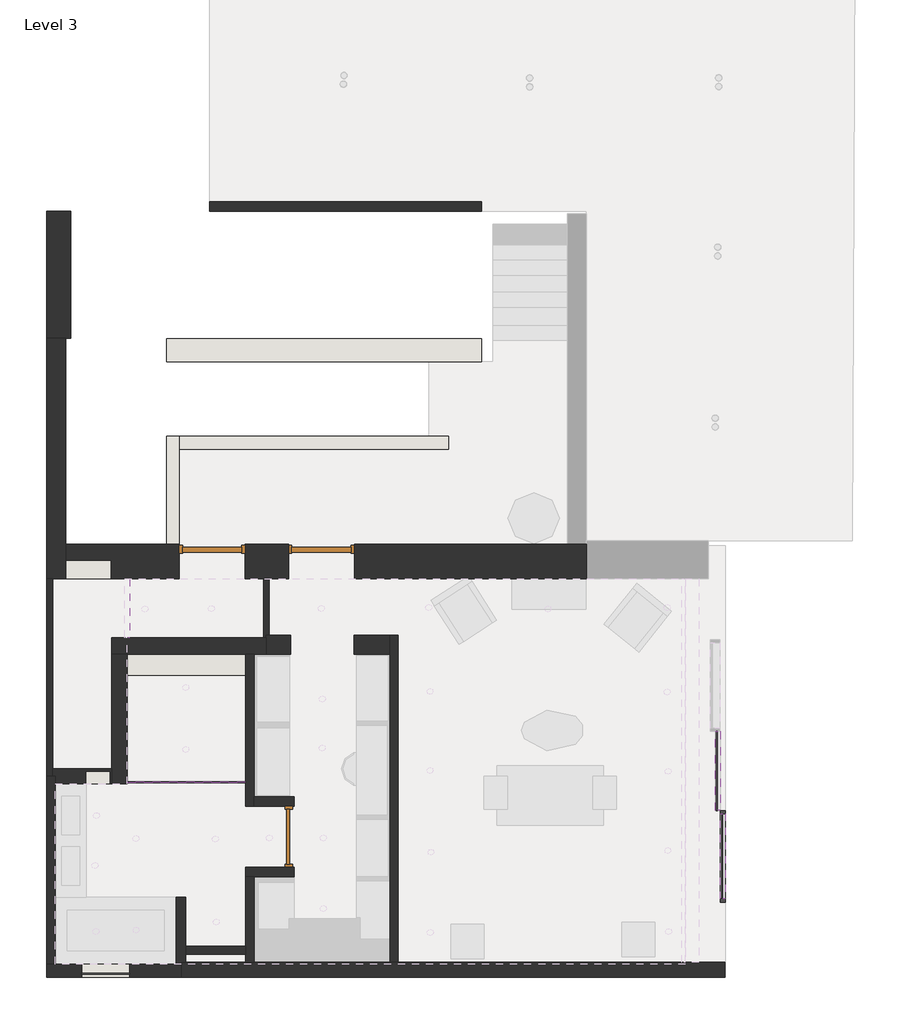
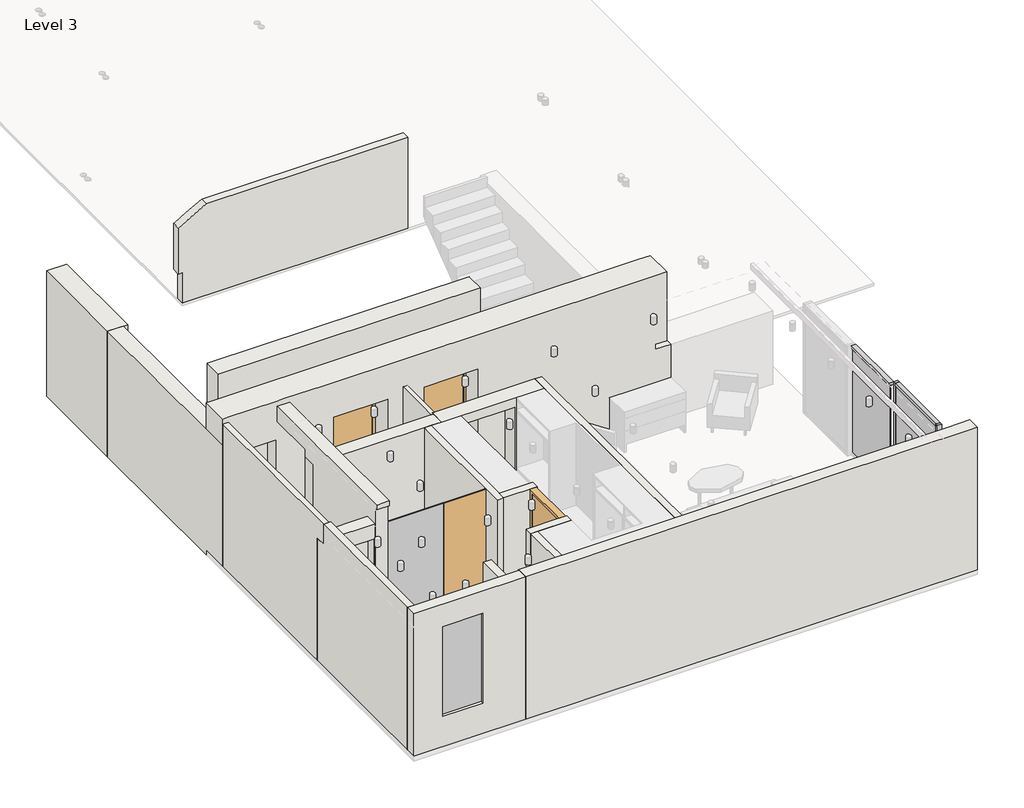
# One storey, part 1 of 3: 25 walls, 12 members, 4 doors, 4 plates.
"""IFC4 building model written with IfcOpenShell, lengths in millimetres."""

from ifc_helpers import new_model, si_unit, frame, origin, place, context, project, spatial, polyline, outline, extrude, faceted_brep, transform, mapped, element, save
from components import door_02_type_1_7ad4ace3, door_02_type_6_e402827d, door_curtain_01_door_curtain_01_359b2a1c, rectangular_mullion_5_x_5mm_88a26902, rectangular_mullion_5_x_5mm_aac041f1, rectangular_mullion_5_x_5mm_7703ae8f, rectangular_mullion_5_x_5mm_a12ae60d, rectangular_mullion_50_x_80mm_1b52a698, rectangular_mullion_50_x_80mm_d9e2006d, rectangular_mullion_50_x_80mm_2e97effb, system_panel_glazed_2_88c32355, system_panel_glazed_2_60bf9f6a, system_panel_glazed_2_a4a2e409, system_panel_glazed_2_9149ad4c

model = new_model("IFC4")

# Units and contexts
model_context = context("Model", 3, world=origin())
ifc_project = project(units=[si_unit("LENGTHUNIT", "METRE", prefix="MILLI")], contexts=[model_context])

# Site, building, storey
site = spatial("IfcSite", under=ifc_project)
building = spatial("IfcBuilding", under=site)
storey = spatial("IfcBuildingStorey", under=building, Name="Level 3", Elevation=6510.0)

# Doors
placement = place(None, origin())
door_02_type_1_shape = door_02_type_1_7ad4ace3(model_context)
element("IfcDoor", 1, ObjectType="Door_02 : Type 1", at=placement, inside=storey, context=model_context, shape_type="MappedRepresentation", body=[
    mapped(door_02_type_1_shape, transform((-3568.0019919, 5095.5198069, 6510.0), x_axis=(1.0, 0.0, 0.0), y_axis=(0.0, 1.0, 0.0), z_axis=(0.0, 0.0, 1.0))),
])
element("IfcDoor", 2, ObjectType="Door_02 : Type 1", at=placement, inside=storey, context=model_context, shape_type="MappedRepresentation", body=[
    mapped(door_02_type_1_shape, transform((-5282.6989418, 5095.5198069, 6510.0), x_axis=(1.0, 0.0, 0.0), y_axis=(0.0, 1.0, 0.0), z_axis=(0.0, 0.0, 1.0))),
])
door_02_type_6_shape = door_02_type_6_e402827d(model_context)
element("IfcDoor", 3, ObjectType="Door_02 : Type 6", at=placement, inside=storey, context=model_context, shape_type="MappedRepresentation", body=[
    mapped(door_02_type_6_shape, transform((-4073.0019919, 783.8264883, 6510.0), x_axis=(0.0, -1.0, 0.0), y_axis=(1.0, 0.0, 0.0), z_axis=(0.0, 0.0, 1.0))),
])
door_curtain_01_door_curtain_01_shape = door_curtain_01_door_curtain_01_359b2a1c(model_context)
element("IfcDoor", 4, ObjectType="Door_Curtain_01 : Door_Curtain_01", at=placement, inside=storey, context=model_context, shape_type="MappedRepresentation", body=[
    mapped(door_curtain_01_door_curtain_01_shape, transform((-5159.2519919, 1638.8264883, 6515.0), x_axis=(1.0, 0.0, 0.0), y_axis=(0.0, 1.0, 0.0), z_axis=(0.0, 0.0, 1.0))),
])

# Members
rectangular_mullion_5_x_5mm_shape = rectangular_mullion_5_x_5mm_88a26902(model_context)
element("IfcMember", 5, ObjectType="Rectangular Mullion : 5 x 5mm", at=placement, inside=storey, context=model_context, shape_type="MappedRepresentation", body=[
    mapped(rectangular_mullion_5_x_5mm_shape, transform((-5558.0019919, 1638.8264883, 6510.0), x_axis=(1.0, 0.0, 0.0), y_axis=(0.0, -1.0, 0.0), z_axis=(0.0, 0.0, -1.0))),
])
rectangular_mullion_5_x_5mm_2_shape = rectangular_mullion_5_x_5mm_aac041f1(model_context)
element("IfcMember", 6, ObjectType="Rectangular Mullion : 5 x 5mm", at=placement, inside=storey, context=model_context, shape_type="MappedRepresentation", body=[
    mapped(rectangular_mullion_5_x_5mm_2_shape, transform((-6618.0019919, 1638.8264883, 8900.0), x_axis=(-1.0, 0.0, 0.0), y_axis=(0.0, -1.0, 0.0), z_axis=(0.0, 0.0, 1.0))),
])
element("IfcMember", 7, ObjectType="Rectangular Mullion : 5 x 5mm", at=placement, inside=storey, context=model_context, shape_type="MappedRepresentation", body=[
    mapped(rectangular_mullion_5_x_5mm_2_shape, transform((-4758.0019919, 1638.8264883, 6510.0), x_axis=(1.0, 0.0, 0.0), y_axis=(0.0, -1.0, 0.0), z_axis=(0.0, 0.0, -1.0))),
])
rectangular_mullion_5_x_5mm_3_shape = rectangular_mullion_5_x_5mm_7703ae8f(model_context)
element("IfcMember", 8, ObjectType="Rectangular Mullion : 5 x 5mm", at=placement, inside=storey, context=model_context, shape_type="MappedRepresentation", body=[
    mapped(rectangular_mullion_5_x_5mm_3_shape, transform((-5560.5019919, 1638.8264883, 8900.0), x_axis=(0.0, 0.0, 1.0), y_axis=(0.0, -1.0, 0.0), z_axis=(1.0, 0.0, 0.0))),
])
rectangular_mullion_5_x_5mm_4_shape = rectangular_mullion_5_x_5mm_a12ae60d(model_context)
element("IfcMember", 9, ObjectType="Rectangular Mullion : 5 x 5mm", at=placement, inside=storey, context=model_context, shape_type="MappedRepresentation", body=[
    mapped(rectangular_mullion_5_x_5mm_4_shape, transform((-4763.0019919, 1638.8264883, 8900.0), x_axis=(0.0, 0.0, 1.0), y_axis=(0.0, -1.0, 0.0), z_axis=(1.0, 0.0, 0.0))),
])
element("IfcMember", 10, ObjectType="Rectangular Mullion : 5 x 5mm", at=placement, inside=storey, context=model_context, shape_type="MappedRepresentation", body=[
    mapped(rectangular_mullion_5_x_5mm_4_shape, transform((-5555.5019919, 1638.8264883, 6510.0), x_axis=(0.0, 0.0, -1.0), y_axis=(0.0, -1.0, 0.0), z_axis=(-1.0, 0.0, 0.0))),
])
element("IfcMember", 11, ObjectType="Rectangular Mullion : 5 x 5mm", at=placement, inside=storey, context=model_context, shape_type="MappedRepresentation", body=[
    mapped(rectangular_mullion_5_x_5mm_3_shape, transform((-6613.0019919, 1638.8264883, 6510.0), x_axis=(0.0, 0.0, -1.0), y_axis=(0.0, -1.0, 0.0), z_axis=(-1.0, 0.0, 0.0))),
])
rectangular_mullion_50_x_80mm_shape = rectangular_mullion_50_x_80mm_1b52a698(model_context)
element("IfcMember", 12, ObjectType="Rectangular Mullion : 50 x 80mm", at=placement, inside=storey, context=model_context, shape_type="MappedRepresentation", body=[
    mapped(rectangular_mullion_50_x_80mm_shape, transform((2634.4980081, 1195.5198069, 8694.1033932), x_axis=(0.0, 0.0, 1.0), y_axis=(-1.0, 0.0, 0.0), z_axis=(0.0, -1.0, 0.0))),
])
rectangular_mullion_50_x_80mm_2_shape = rectangular_mullion_50_x_80mm_d9e2006d(model_context)
element("IfcMember", 13, ObjectType="Rectangular Mullion : 50 x 80mm", at=placement, inside=storey, context=model_context, shape_type="MappedRepresentation", body=[
    mapped(rectangular_mullion_50_x_80mm_2_shape, transform((2714.4980081, -189.4801931, 8694.1033932), x_axis=(0.0, 0.0, 1.0), y_axis=(-1.0, 0.0, 0.0), z_axis=(0.0, -1.0, 0.0))),
])
element("IfcMember", 14, ObjectType="Rectangular Mullion : 50 x 80mm", at=placement, inside=storey, context=model_context, shape_type="MappedRepresentation", body=[
    mapped(rectangular_mullion_50_x_80mm_2_shape, transform((2714.4980081, 1145.5198069, 6510.0), x_axis=(0.0, 0.0, -1.0), y_axis=(-1.0, 0.0, 0.0), z_axis=(0.0, 1.0, 0.0))),
])
rectangular_mullion_50_x_80mm_3_shape = rectangular_mullion_50_x_80mm_2e97effb(model_context)
element("IfcMember", 15, ObjectType="Rectangular Mullion : 50 x 80mm", at=placement, inside=storey, context=model_context, shape_type="MappedRepresentation", body=[
    mapped(rectangular_mullion_50_x_80mm_3_shape, transform((2714.4980081, 1195.5198069, 8694.1033932), x_axis=(0.0, 1.0, 0.0), y_axis=(-1.0, 0.0, 0.0), z_axis=(0.0, 0.0, 1.0))),
])
element("IfcMember", 16, ObjectType="Rectangular Mullion : 50 x 80mm", at=placement, inside=storey, context=model_context, shape_type="MappedRepresentation", body=[
    mapped(rectangular_mullion_50_x_80mm_3_shape, transform((2714.4980081, -239.4801931, 6510.0), x_axis=(0.0, -1.0, 0.0), y_axis=(-1.0, 0.0, 0.0), z_axis=(0.0, 0.0, -1.0))),
])

# Plates
system_panel_glazed_2_shape = system_panel_glazed_2_88c32355(model_context)
element("IfcPlate", 17, ObjectType="System Panel : Glazed 2", at=placement, inside=storey, context=model_context, shape_type="MappedRepresentation", body=[
    mapped(system_panel_glazed_2_shape, transform((2634.4980081, 1815.5198069, 6560.0), x_axis=(0.0, -1.0, 0.0), y_axis=(1.0, 0.0, 0.0), z_axis=(0.0, 0.0, 1.0))),
])
system_panel_glazed_2_2_shape = system_panel_glazed_2_60bf9f6a(model_context)
element("IfcPlate", 18, ObjectType="System Panel : Glazed 2", at=placement, inside=storey, context=model_context, shape_type="MappedRepresentation", body=[
    mapped(system_panel_glazed_2_2_shape, transform((2714.4980081, 478.0198069, 6560.0), x_axis=(0.0, -1.0, 0.0), y_axis=(1.0, 0.0, 0.0), z_axis=(0.0, 0.0, 1.0))),
])
system_panel_glazed_2_3_shape = system_panel_glazed_2_a4a2e409(model_context)
element("IfcPlate", 19, ObjectType="System Panel : Glazed 2", at=placement, inside=storey, context=model_context, shape_type="MappedRepresentation", body=[
    mapped(system_panel_glazed_2_3_shape, transform((-6086.7519919, 1638.8264883, 6515.0), x_axis=(1.0, 0.0, 0.0), y_axis=(0.0, 1.0, 0.0), z_axis=(0.0, 0.0, 1.0))),
])
system_panel_glazed_2_4_shape = system_panel_glazed_2_9149ad4c(model_context)
element("IfcPlate", 20, ObjectType="System Panel : Glazed 2", at=placement, inside=storey, context=model_context, shape_type="MappedRepresentation", body=[
    mapped(system_panel_glazed_2_4_shape, transform((-6953.0019919, -1361.1735117, 7112.4168802), x_axis=(1.0, 0.0, 0.0), y_axis=(0.0, 1.0, 0.0), z_axis=(0.0, 0.0, 1.0))),
])

# Walls
element("IfcWall", 21, ObjectType="Generic - Ext 100mm", at=placement, inside=storey, context=model_context, shape_type="Brep", body=[
    faceted_brep([(-7880.5019919, 4825.5198069, 6510.0), (-7880.5019919, 1733.8264883, 6510.0), (-7880.5019919, 1733.8264883, 8950.0), (-7880.5019919, 1530.5887248, 8950.0), (-7880.5019919, 1530.5887248, 9350.0), (-7880.5019919, 4825.5198069, 9350.0), (-7880.5019919, 4825.5198069, 8916.1931507), (-7780.5019919, 4825.5198069, 6510.0), (-7780.5019919, 4825.5198069, 9350.0), (-7780.5019919, 1530.5887248, 9350.0), (-7780.5019919, 1530.5887248, 8950.0), (-7780.5019919, 1733.8264883, 8950.0), (-7780.5019919, 1733.8264883, 6510.0), (-7780.5019919, 1853.8264883, 6510.0)], [[[0, 1, 2, 3, 4, 5, 6]], [[7, 8, 9, 10, 11, 12, 13]], [[0, 6, 5, 8, 7]], [[1, 0, 7, 13, 12]], [[2, 1, 12, 11]], [[5, 4, 9, 8]], [[3, 2, 11, 10]], [[4, 3, 10, 9]]]),
])
element("IfcWall", 22, ObjectType="Generic - Ext 135mm", at=placement, inside=storey, context=model_context, shape_type="Brep", body=[
    faceted_brep([(-7880.5019919, 1733.8264883, 6510.0), (-7880.5019919, -1211.1735117, 6510.0), (-7880.5019919, -1211.1735117, 9350.0), (-7880.5019919, 1530.5887248, 9350.0), (-7880.5019919, 1530.5887248, 8950.0), (-7880.5019919, 1733.8264883, 8950.0), (-7745.5019919, 1733.8264883, 6510.0), (-7745.5019919, 1733.8264883, 8950.0), (-7745.5019919, 1613.8264883, 8950.0), (-7745.5019919, 1530.5887248, 8950.0), (-7745.5019919, 1530.5887248, 9350.0), (-7745.5019919, -1211.1735117, 9350.0), (-7745.5019919, -1211.1735117, 6510.0), (-7745.5019919, 1613.8264883, 6510.0), (-7780.5019919, 1733.8264883, 6510.0), (-7780.5019919, 1530.5887248, 9350.0), (-7780.5019919, 1733.8264883, 8950.0), (-7780.5019919, 1530.5887248, 8950.0)], [[[0, 1, 2, 3, 4, 5]], [[6, 7, 8, 9, 10, 11, 12, 13]], [[2, 1, 12, 11]], [[1, 0, 14, 6, 13, 12]], [[3, 2, 11, 10, 15]], [[0, 5, 16, 7, 6, 14]], [[4, 3, 15, 10, 9, 17]], [[5, 4, 17, 9, 8, 7, 16]]]),
])
element("IfcWall", 23, ObjectType="Generic - Ext 150mm", at=placement, inside=storey, context=model_context, shape_type="Brep", body=[
    faceted_brep([(-5319.2035042, 10588.8264883, 7375.0), (-1057.6989418, 10588.8264883, 7375.0), (-1057.6989418, 10588.8264883, 9196.0483), (-4867.0187945, 10588.8264883, 9196.0483), (-5394.2035042, 10588.8264883, 8898.9949825), (-5394.2035042, 10588.8264883, 7980.0), (-5319.2035042, 10588.8264883, 7980.0), (-5319.2035042, 10738.8264883, 7375.0), (-5319.2035042, 10738.8264883, 7980.0), (-5394.2035042, 10738.8264883, 7980.0), (-5394.2035042, 10738.8264883, 8080.0), (-5394.2035042, 10738.8264883, 8898.9949825), (-5365.7991741, 10738.8264883, 8915.0), (-5162.6989418, 10738.8264883, 9029.4410995), (-4867.0187945, 10738.8264883, 9196.0483), (-1057.6989418, 10738.8264883, 9196.0483), (-1057.6989418, 10738.8264883, 7375.0)], [[[0, 1, 2, 3, 4, 5, 6]], [[7, 8, 9, 10, 11, 12, 13, 14, 15, 16]], [[2, 1, 16, 15]], [[0, 6, 8, 7]], [[1, 0, 7, 16]], [[3, 2, 15, 14]], [[5, 4, 11, 10, 9]], [[5, 9, 8, 6]], [[4, 3, 14, 13, 12, 11]]]),
])
element("IfcWall", 24, ObjectType="Generic - Ext 210mm", at=placement, inside=storey, context=model_context, shape_type="Brep", body=[
    faceted_brep([(-5769.6139704, -1211.1735117, 6510.0), (-5844.6139704, -1211.1735117, 6510.0), (-7745.5019919, -1211.1735117, 6510.0), (-7880.5019919, -1211.1735117, 6510.0), (-7880.5019919, -1211.1735117, 9350.0), (-7745.5019919, -1211.1735117, 9350.0), (-5769.6139704, -1211.1735117, 9350.0), (-5769.6139704, -1211.1735117, 8900.0), (-7330.5019919, -1211.1735117, 8900.0), (-7330.5019919, -1211.1735117, 7112.4168802), (-6575.5019919, -1211.1735117, 7112.4168802), (-6575.5019919, -1211.1735117, 8900.0), (-7880.5019919, -1421.1735117, 6510.0), (-5769.6139704, -1421.1735117, 6510.0), (-5769.6139704, -1421.1735117, 9350.0), (-7880.5019919, -1421.1735117, 9350.0), (-7330.5019919, -1421.1735117, 7112.4168802), (-7330.5019919, -1421.1735117, 8900.0), (-6575.5019919, -1421.1735117, 8900.0), (-6575.5019919, -1421.1735117, 7112.4168802)], [[[0, 1, 2, 3, 4, 5, 6, 7], [8, 9, 10, 11]], [[12, 13, 14, 15], [16, 17, 18, 19]], [[3, 2, 1, 0, 13, 12]], [[6, 5, 4, 15, 14]], [[4, 3, 12, 15]], [[16, 9, 8, 17]], [[17, 8, 11, 18]], [[18, 11, 10, 19]], [[9, 16, 19, 10]], [[6, 14, 13, 0, 7]]]),
])
element("IfcWall", 25, ObjectType="Generic - Ext 240mm", at=placement, inside=storey, context=model_context, shape_type="Brep", body=[
    faceted_brep([(2759.4980081, -1181.1735117, 6510.0), (2349.4980081, -1181.1735117, 6510.0), (-2365.5019919, -1181.1735117, 6510.0), (-2495.5019919, -1181.1735117, 6510.0), (-4628.0019919, -1181.1735117, 6510.0), (-4758.0019919, -1181.1735117, 6510.0), (-5694.6139704, -1181.1735117, 6510.0), (-5769.6139704, -1181.1735117, 6510.0), (-5769.6139704, -1181.1735117, 8900.0), (-5769.6139704, -1181.1735117, 9350.0), (2349.4980081, -1181.1735117, 9350.0), (2759.4980081, -1181.1735117, 9350.0), (2759.4980081, -1421.1735117, 6510.0), (2759.4980081, -1421.1735117, 9350.0), (-5769.6139704, -1421.1735117, 9350.0), (-5769.6139704, -1421.1735117, 6510.0), (-5769.6139704, -1211.1735117, 6510.0), (-5769.6139704, -1211.1735117, 9350.0)], [[[0, 1, 2, 3, 4, 5, 6, 7, 8, 9, 10, 11]], [[12, 13, 14, 15]], [[7, 6, 5, 4, 3, 2, 1, 0, 12, 15, 16]], [[11, 10, 9, 17, 14, 13]], [[0, 11, 13, 12]], [[7, 16, 15, 14, 17, 9, 8]]]),
])
element("IfcWall", 26, ObjectType="Generic - Ext 300mm", at=placement, inside=storey, context=model_context, shape_type="Brep", body=[
    faceted_brep([(-7880.5019919, 4825.5198069, 8916.1931507), (-7880.5019919, 5365.5198069, 8916.1931507), (-7880.5019919, 8595.5198069, 8916.1931507), (-7880.5019919, 8595.5198069, 8915.0), (-7880.5019919, 8595.5198069, 6410.0), (-7880.5019919, 5365.5198069, 6410.0), (-7880.5019919, 5365.5198069, 6510.0), (-7880.5019919, 4825.5198069, 6510.0), (-7580.5019919, 8595.5198069, 8916.1931507), (-7580.5019919, 5365.5198069, 8916.1931507), (-7580.5019919, 4825.5198069, 8916.1931507), (-7580.5019919, 4825.5198069, 8687.2519355), (-7580.5019919, 4825.5198069, 7367.2519355), (-7580.5019919, 4825.5198069, 6510.0), (-7580.5019919, 5365.5198069, 6510.0), (-7580.5019919, 5365.5198069, 6410.0), (-7580.5019919, 8595.5198069, 6410.0), (-7780.5019919, 4825.5198069, 6510.0)], [[[0, 1, 2, 3, 4, 5, 6, 7]], [[8, 9, 10, 11, 12, 13, 14, 15, 16]], [[4, 16, 15, 5]], [[2, 1, 0, 10, 9, 8]], [[4, 3, 2, 8, 16]], [[10, 0, 7, 17, 13, 12, 11]], [[6, 14, 13, 17, 7]], [[14, 6, 5, 15]]]),
])
element("IfcWall", 27, ObjectType="Generic - Ext 380mm", at=placement, inside=storey, context=model_context, shape_type="Brep", body=[
    faceted_brep([(-7500.5019919, 8595.5198069, 6410.0), (-7500.5019919, 10588.8264883, 6410.0), (-7500.5019919, 10588.8264883, 8608.580519), (-7500.5019919, 10588.8264883, 8915.0), (-7500.5019919, 8595.5198069, 8915.0), (-7880.5019919, 8595.5198069, 6410.0), (-7880.5019919, 8595.5198069, 8915.0), (-7880.5019919, 10588.8264883, 8915.0), (-7880.5019919, 10588.8264883, 6410.0), (-7580.5019919, 8595.5198069, 6410.0)], [[[0, 1, 2, 3, 4]], [[5, 6, 7, 8]], [[1, 0, 9, 5, 8]], [[4, 3, 7, 6]], [[0, 4, 6, 5, 9]], [[3, 2, 1, 8, 7]]]),
])
element("IfcWall", 28, ObjectType="Generic - Int 130mm", at=placement, inside=storey, context=model_context, shape_type="Brep", body=[
    faceted_brep([(-2365.5019919, -1181.1735117, 6510.0), (-2365.5019919, 3943.8264883, 6510.0), (-2365.5019919, 3943.8264883, 8900.0), (-2365.5019919, -1181.1735117, 8900.0), (-2495.5019919, -1181.1735117, 6510.0), (-2495.5019919, -1181.1735117, 8900.0), (-2495.5019919, 3643.8264883, 8900.0), (-2495.5019919, 3943.8264883, 8900.0), (-2495.5019919, 3943.8264883, 6510.0), (-2495.5019919, 3643.8264883, 6510.0)], [[[0, 1, 2, 3]], [[4, 5, 6, 7, 8, 9]], [[1, 0, 4, 9, 8]], [[3, 2, 7, 6, 5]], [[0, 3, 5, 4]], [[2, 1, 8, 7]]]),
])
element("IfcWall", 29, ObjectType="Generic - Int 130mm", at=placement, inside=storey, context=model_context, shape_type="Brep", body=[
    faceted_brep([(-4758.0019919, 3643.8264883, 8900.0), (-4758.0019919, 3643.8264883, 6938.6147011), (-4758.0019919, 3643.8264883, 6510.0), (-4758.0019919, 3313.8264883, 6510.0), (-4758.0019919, 1263.8264883, 6510.0), (-4758.0019919, 1263.8264883, 8900.0), (-4628.0019919, 3643.8264883, 6510.0), (-4628.0019919, 3643.8264883, 8900.0), (-4628.0019919, 1413.8264883, 8900.0), (-4628.0019919, 1263.8264883, 8900.0), (-4628.0019919, 1263.8264883, 6510.0), (-4628.0019919, 1413.8264883, 6510.0)], [[[0, 1, 2, 3, 4, 5]], [[6, 7, 8, 9, 10, 11]], [[4, 3, 2, 6, 11, 10]], [[0, 5, 9, 8, 7]], [[5, 4, 10, 9]], [[0, 7, 6, 2, 1]]]),
])
element("IfcWall", 30, ObjectType="Generic - Int 130mm", at=placement, inside=storey, context=model_context, shape_type="Brep", body=[
    faceted_brep([(-4758.0019919, 157.224799, 6510.0), (-4758.0019919, -930.4532002, 6510.0), (-4758.0019919, -1060.4532002, 6510.0), (-4758.0019919, -1181.1735117, 6510.0), (-4758.0019919, -1181.1735117, 8900.0), (-4758.0019919, -1060.4532002, 8900.0), (-4758.0019919, -930.4532002, 8900.0), (-4758.0019919, 157.224799, 8900.0), (-4628.0019919, 157.224799, 6510.0), (-4628.0019919, 157.224799, 8900.0), (-4628.0019919, -1181.1735117, 8900.0), (-4628.0019919, -1181.1735117, 6510.0)], [[[0, 1, 2, 3, 4, 5, 6, 7]], [[8, 9, 10, 11]], [[3, 2, 1, 0, 8, 11]], [[7, 6, 5, 4, 10, 9]], [[0, 7, 9, 8]], [[4, 3, 11, 10]]]),
])
element("IfcWall", 31, ObjectType="Generic - Int 130mm", at=placement, inside=storey, context=model_context, shape_type="SweptSolid", body=[
    extrude(outline(polyline([(-5694.6139704, -930.4532002), (-4758.0019919, -930.4532002), (-4758.0019919, -1060.4532002), (-5694.6139704, -1060.4532002), (-5694.6139704, -930.4532002)])), frame((0.0, 0.0, 6510.0), z_axis=(0.0, 0.0, 1.0), x_axis=(1.0, 0.0, 0.0)), (0.0, 0.0, 1.0), 2390.0),
])
element("IfcWall", 32, ObjectType="Generic - Int 150mm", at=placement, inside=storey, context=model_context, shape_type="SweptSolid", body=[
    extrude(outline(polyline([(-3998.0019919, 1263.8264883), (-4628.0019919, 1263.8264883), (-4628.0019919, 1413.8264883), (-3998.0019919, 1413.8264883), (-3998.0019919, 1263.8264883)])), frame((0.0, 0.0, 6510.0), z_axis=(0.0, 0.0, 1.0), x_axis=(1.0, 0.0, 0.0)), (0.0, 0.0, 1.0), 2390.0),
])
element("IfcWall", 33, ObjectType="Generic - Int 150mm", at=placement, inside=storey, context=model_context, shape_type="Brep", body=[
    faceted_brep([(-3998.0019919, 307.224799, 6510.0), (-4148.0019919, 307.224799, 6510.0), (-4758.0019919, 307.224799, 6510.0), (-4758.0019919, 307.224799, 8900.0), (-4148.0019919, 307.224799, 8900.0), (-3998.0019919, 307.224799, 8900.0), (-3998.0019919, 157.224799, 6510.0), (-3998.0019919, 157.224799, 8900.0), (-4628.0019919, 157.224799, 8900.0), (-4758.0019919, 157.224799, 8900.0), (-4758.0019919, 157.224799, 6510.0), (-4628.0019919, 157.224799, 6510.0)], [[[0, 1, 2, 3, 4, 5]], [[6, 7, 8, 9, 10, 11]], [[2, 1, 0, 6, 11, 10]], [[5, 4, 3, 9, 8, 7]], [[3, 2, 10, 9]], [[0, 5, 7, 6]]]),
])
element("IfcWall", 34, ObjectType="Generic - Int 150mm", at=placement, inside=storey, context=model_context, shape_type="Brep", body=[
    faceted_brep([(-5844.6139704, -161.1735117, 6510.0), (-5844.6139704, -1211.1735117, 6510.0), (-5844.6139704, -1211.1735117, 8900.0), (-5844.6139704, -161.1735117, 8900.0), (-5694.6139704, -161.1735117, 6510.0), (-5694.6139704, -161.1735117, 8900.0), (-5694.6139704, -930.4532002, 8900.0), (-5694.6139704, -1060.4532002, 8900.0), (-5694.6139704, -1181.1735117, 8900.0), (-5694.6139704, -1181.1735117, 6510.0), (-5694.6139704, -1060.4532002, 6510.0), (-5694.6139704, -930.4532002, 6510.0), (-5769.6139704, -1181.1735117, 6510.0), (-5769.6139704, -1211.1735117, 6510.0), (-5769.6139704, -1211.1735117, 8900.0), (-5769.6139704, -1181.1735117, 8900.0)], [[[0, 1, 2, 3]], [[4, 5, 6, 7, 8, 9, 10, 11]], [[1, 0, 4, 11, 10, 9, 12, 13]], [[3, 2, 14, 15, 8, 7, 6, 5]], [[0, 3, 5, 4]], [[2, 1, 13, 14]], [[13, 12, 15, 14]], [[12, 9, 8, 15]]]),
])
element("IfcWall", 35, ObjectType="Generic - Int 200mm", at=placement, inside=storey, context=model_context, shape_type="Brep", body=[
    faceted_brep([(-5997.6989418, 7058.2374199, 6510.0), (-5997.6989418, 5365.5198069, 6510.0), (-5997.6989418, 5365.5198069, 7610.0), (-5997.6989418, 7058.2374199, 7610.0), (-5797.6989418, 7058.2374199, 6510.0), (-5797.6989418, 7058.2374199, 7610.0), (-5797.6989418, 6858.2374199, 7610.0), (-5797.6989418, 5365.5198069, 7610.0), (-5797.6989418, 5365.5198069, 6510.0), (-5797.6989418, 6858.2374199, 6510.0)], [[[0, 1, 2, 3]], [[4, 5, 6, 7, 8, 9]], [[1, 0, 4, 9, 8]], [[3, 2, 7, 6, 5]], [[0, 3, 5, 4]], [[2, 1, 8, 7]]]),
])
element("IfcWall", 36, ObjectType="Generic - Int 200mm", at=placement, inside=storey, context=model_context, shape_type="Brep", body=[
    faceted_brep([(-1577.6989418, 7058.2374199, 6510.0), (-1877.6989418, 7058.2374199, 6510.0), (-5797.6989418, 7058.2374199, 6510.0), (-5797.6989418, 7058.2374199, 7610.0), (-1577.6989418, 7058.2374199, 7610.0), (-1577.6989418, 6858.2374199, 6510.0), (-1577.6989418, 6858.2374199, 7610.0), (-5797.6989418, 6858.2374199, 7610.0), (-5797.6989418, 6858.2374199, 6510.0)], [[[0, 1, 2, 3, 4]], [[5, 6, 7, 8]], [[2, 1, 0, 5, 8]], [[4, 3, 7, 6]], [[0, 4, 6, 5]], [[3, 2, 8, 7]]]),
])
element("IfcWall", 37, ObjectType="Generic - Int 240mm", at=placement, inside=storey, context=model_context, shape_type="Brep", body=[
    faceted_brep([(-6858.0019919, 3643.8264883, 6510.0), (-6858.0019919, 1853.8264883, 6510.0), (-6858.0019919, 1613.8264883, 6510.0), (-6858.0019919, 1613.8264883, 8950.0), (-6858.0019919, 1613.8264883, 9254.0), (-6858.0019919, 1565.5887248, 9254.0), (-6858.0019919, 1565.5887248, 9350.0), (-6858.0019919, 4815.5887248, 9350.0), (-6858.0019919, 4815.5887248, 9045.0), (-6858.0019919, 3903.8264883, 9045.0), (-6858.0019919, 3903.8264883, 8900.0), (-6858.0019919, 3643.8264883, 8900.0), (-6618.0019919, 3643.8264883, 6510.0), (-6618.0019919, 3643.8264883, 6938.6147011), (-6618.0019919, 3643.8264883, 8900.0), (-6618.0019919, 3903.8264883, 8900.0), (-6618.0019919, 3903.8264883, 9045.0), (-6618.0019919, 4815.5887248, 9045.0), (-6618.0019919, 4815.5887248, 9350.0), (-6618.0019919, 1565.5887248, 9350.0), (-6618.0019919, 1565.5887248, 9254.0), (-6618.0019919, 1613.8264883, 9254.0), (-6618.0019919, 1613.8264883, 6510.0), (-6618.0019919, 3313.8264883, 6510.0), (-6658.0019919, 3903.8264883, 9045.0)], [[[0, 1, 2, 3, 4, 5, 6, 7, 8, 9, 10, 11]], [[12, 13, 14, 15, 16, 17, 18, 19, 20, 21, 22, 23]], [[2, 1, 0, 12, 23, 22]], [[7, 6, 19, 18]], [[8, 7, 18, 17]], [[9, 8, 17, 16, 24]], [[0, 11, 14, 13, 12]], [[10, 9, 24, 16, 15]], [[11, 10, 15, 14]], [[5, 4, 21, 20]], [[6, 5, 20, 19]], [[4, 3, 2, 22, 21]]]),
])
element("IfcWall", 38, ObjectType="Generic - Int 240mm", at=placement, inside=storey, context=model_context, shape_type="Brep", body=[
    faceted_brep([(-6858.0019919, 1853.8264883, 6510.0), (-7780.5019919, 1853.8264883, 6510.0), (-7780.5019919, 1853.8264883, 8950.0), (-6858.0019919, 1853.8264883, 8950.0), (-7745.5019919, 1613.8264883, 6510.0), (-6858.0019919, 1613.8264883, 6510.0), (-6858.0019919, 1613.8264883, 8950.0), (-7745.5019919, 1613.8264883, 8950.0), (-6884.9363535, 1613.8264883, 8652.4298551), (-6884.9363535, 1613.8264883, 7702.4298551), (-7264.9363535, 1613.8264883, 7702.4298551), (-7264.9363535, 1613.8264883, 8652.4298551), (-7745.5019919, 1733.8264883, 6510.0), (-7780.5019919, 1733.8264883, 6510.0), (-7780.5019919, 1733.8264883, 8950.0), (-7745.5019919, 1733.8264883, 8950.0), (-6884.9363535, 1807.9458344, 8652.4298551), (-7264.9363535, 1807.9458344, 8652.4298551), (-7264.9363535, 1807.9458344, 7702.4298551), (-6884.9363535, 1807.9458344, 7702.4298551)], [[[0, 1, 2, 3]], [[4, 5, 6, 7], [8, 9, 10, 11]], [[1, 0, 5, 4, 12, 13]], [[3, 2, 14, 15, 7, 6]], [[2, 1, 13, 14]], [[13, 12, 15, 14]], [[4, 7, 15, 12]], [[16, 17, 18, 19]], [[16, 19, 9, 8]], [[19, 18, 10, 9]], [[18, 17, 11, 10]], [[17, 16, 8, 11]], [[0, 3, 6, 5]]]),
])
element("IfcWall", 39, ObjectType="Generic - Int 260mm", at=placement, inside=storey, context=model_context, shape_type="Brep", body=[
    faceted_brep([(-4433.0019919, 3903.8264883, 8900.0), (-4433.0019919, 3903.8264883, 6510.0), (-4473.0019919, 3903.8264883, 6510.0), (-6858.0019919, 3903.8264883, 6510.0), (-6858.0019919, 3903.8264883, 8900.0), (-4473.0019919, 3903.8264883, 8900.0), (-4433.0019919, 3643.8264883, 6510.0), (-4433.0019919, 3643.8264883, 8900.0), (-4628.0019919, 3643.8264883, 8900.0), (-4758.0019919, 3643.8264883, 8900.0), (-6618.0019919, 3643.8264883, 8900.0), (-6858.0019919, 3643.8264883, 8900.0), (-6858.0019919, 3643.8264883, 6510.0), (-6618.0019919, 3643.8264883, 6510.0), (-4758.0019919, 3643.8264883, 6510.0), (-4628.0019919, 3643.8264883, 6510.0)], [[[0, 1, 2, 3, 4, 5]], [[6, 7, 8, 9, 10, 11, 12, 13, 14, 15]], [[3, 2, 1, 6, 15, 14, 13, 12]], [[0, 5, 4, 11, 10, 9, 8, 7]], [[4, 3, 12, 11]], [[0, 7, 6, 1]]]),
])
element("IfcWall", 40, ObjectType="Generic - Int 300mm", at=placement, inside=storey, context=model_context, shape_type="Brep", body=[
    faceted_brep([(-2495.5019919, 3943.8264883, 6510.0), (-3053.5954091, 3943.8264883, 6510.0), (-3053.5954091, 3943.8264883, 8711.4520204), (-4053.5954091, 3943.8264883, 8711.4520204), (-4053.5954091, 3943.8264883, 6510.0), (-4393.0019919, 3943.8264883, 6510.0), (-4433.0019919, 3943.8264883, 6510.0), (-4433.0019919, 3943.8264883, 8900.0), (-4393.0019919, 3943.8264883, 8900.0), (-2495.5019919, 3943.8264883, 8900.0), (-2495.5019919, 3643.8264883, 6510.0), (-2495.5019919, 3643.8264883, 8900.0), (-4433.0019919, 3643.8264883, 8900.0), (-4433.0019919, 3643.8264883, 6510.0), (-4053.5954091, 3643.8264883, 6510.0), (-4053.5954091, 3643.8264883, 8711.4520204), (-3053.5954091, 3643.8264883, 8711.4520204), (-3053.5954091, 3643.8264883, 6510.0), (-4433.0019919, 3903.8264883, 6510.0), (-4433.0019919, 3903.8264883, 8900.0)], [[[0, 1, 2, 3, 4, 5, 6, 7, 8, 9]], [[10, 11, 12, 13, 14, 15, 16, 17]], [[0, 9, 11, 10]], [[1, 0, 10, 17]], [[7, 6, 18, 13, 12, 19]], [[9, 8, 7, 19, 12, 11]], [[2, 1, 17, 16]], [[3, 2, 16, 15]], [[4, 3, 15, 14]], [[6, 5, 4, 14, 13, 18]]]),
])
element("IfcWall", 41, ObjectType="Generic - Int 330mm", at=placement, inside=storey, context=model_context, shape_type="SweptSolid", body=[
    extrude(outline(polyline([(-6618.0019919, 3643.8264883), (-4758.0019919, 3643.8264883), (-4758.0019919, 3313.8264883), (-6618.0019919, 3313.8264883), (-6618.0019919, 3643.8264883)])), frame((0.0, 0.0, 6510.0), z_axis=(0.0, 0.0, 1.0), x_axis=(1.0, 0.0, 0.0)), (0.0, 0.0, 1.0), 428.6147011),
])
element("IfcWall", 42, ObjectType="Generic - Int 360mm", at=placement, inside=storey, context=model_context, shape_type="Brep", body=[
    faceted_brep([(-1057.6989418, 8588.2374199, 6510.0), (-1462.6989418, 8588.2374199, 6510.0), (-5997.6989418, 8588.2374199, 6510.0), (-5997.6989418, 8588.2374199, 7620.3143871), (-1057.6989418, 8588.2374199, 7620.3143871), (-1057.6989418, 8228.2374199, 6510.0), (-1057.6989418, 8228.2374199, 7620.3143871), (-5997.6989418, 8228.2374199, 7620.3143871), (-5997.6989418, 8228.2374199, 6510.0), (-1057.6989418, 8558.2374199, 7620.3143871)], [[[0, 1, 2, 3, 4]], [[5, 6, 7, 8]], [[2, 1, 0, 5, 8]], [[3, 2, 8, 7]], [[4, 3, 7, 6, 9]], [[0, 4, 9, 6, 5]]]),
])
element("IfcWall", 43, ObjectType="Generic - Int 540mm", at=placement, inside=storey, context=model_context, shape_type="Brep", body=[
    faceted_brep([(506.4168364, 4825.5198069, 9450.0), (286.4168364, 4825.5198069, 9450.0), (-2751.3974698, 4825.5198069, 9450.0), (-5976.3974698, 4825.5198069, 9450.0), (-6706.3974698, 4825.5198069, 9450.0), (-6858.0019919, 4825.5198069, 9450.0), (-7786.3974698, 4825.5198069, 9450.0), (-7880.5019919, 4825.5198069, 9450.0), (-7880.5019919, 4825.5198069, 9350.0), (-7880.5019919, 4825.5198069, 8916.1931507), (-7580.5019919, 4825.5198069, 8916.1931507), (-7580.5019919, 4825.5198069, 8687.2519355), (-6866.3734023, 4825.5198069, 8687.2519355), (-6866.3734023, 4825.5198069, 7367.2519355), (-7580.5019919, 4825.5198069, 7367.2519355), (-7580.5019919, 4825.5198069, 6510.0), (-5797.6989418, 4825.5198069, 6510.0), (-5797.6989418, 4825.5198069, 8760.0), (-4767.6989418, 4825.5198069, 8760.0), (-4767.6989418, 4825.5198069, 6510.0), (-4473.0019919, 4825.5198069, 6510.0), (-4393.0019919, 4825.5198069, 6510.0), (-4083.0019919, 4825.5198069, 6510.0), (-4083.0019919, 4825.5198069, 8760.0), (-3053.0019919, 4825.5198069, 8760.0), (-3053.0019919, 4825.5198069, 6510.0), (586.4168364, 4825.5198069, 6510.0), (586.4168364, 4825.5198069, 7980.0), (286.4168364, 4825.5198069, 7980.0), (286.4168364, 4825.5198069, 8080.0), (506.4168364, 4825.5198069, 8080.0), (-7880.5019919, 5365.5198069, 9450.0), (-7786.3974698, 5365.5198069, 9450.0), (286.4168364, 5365.5198069, 9450.0), (506.4168364, 5365.5198069, 9450.0), (506.4168364, 5365.5198069, 8080.0), (286.4168364, 5365.5198069, 8080.0), (286.4168364, 5365.5198069, 7980.0), (586.4168364, 5365.5198069, 7980.0), (586.4168364, 5365.5198069, 6510.0), (286.4168364, 5365.5198069, 6510.0), (-3053.0019919, 5365.5198069, 6510.0), (-3053.0019919, 5365.5198069, 8760.0), (-4083.0019919, 5365.5198069, 8760.0), (-4083.0019919, 5365.5198069, 6510.0), (-4767.6989418, 5365.5198069, 6510.0), (-4767.6989418, 5365.5198069, 8760.0), (-5797.6989418, 5365.5198069, 8760.0), (-5797.6989418, 5365.5198069, 7610.0), (-5797.6989418, 5365.5198069, 6510.0), (-5997.6989418, 5365.5198069, 6510.0), (-7580.5019919, 5365.5198069, 6510.0), (-7580.5019919, 5365.5198069, 8916.1931507), (-7880.5019919, 5365.5198069, 8916.1931507), (-7580.5019919, 5117.9533226, 7367.2519355), (-7580.5019919, 5117.9533226, 8687.2519355), (-6866.3734023, 5117.9533226, 7367.2519355), (-6866.3734023, 5117.9533226, 8687.2519355)], [[[0, 1, 2, 3, 4, 5, 6, 7, 8, 9, 10, 11, 12, 13, 14, 15, 16, 17, 18, 19, 20, 21, 22, 23, 24, 25, 26, 27, 28, 29, 30]], [[31, 32, 33, 34, 35, 36, 37, 38, 39, 40, 41, 42, 43, 44, 45, 46, 47, 48, 49, 50, 51, 52, 53]], [[15, 51, 50, 49, 16]], [[39, 26, 25, 41, 40]], [[44, 22, 21, 20, 19, 45]], [[7, 6, 5, 4, 3, 2, 1, 0, 34, 33, 32, 31]], [[53, 52, 10, 9]], [[51, 15, 14, 54, 55, 11, 10, 52]], [[26, 39, 38, 27]], [[0, 30, 35, 34]], [[7, 31, 53, 9, 8]], [[25, 24, 42, 41]], [[23, 22, 44, 43]], [[23, 43, 42, 24]], [[18, 46, 45, 19]], [[46, 18, 17, 47]], [[47, 17, 16, 49, 48]], [[37, 28, 27, 38]], [[29, 36, 35, 30]], [[28, 37, 36, 29]], [[56, 57, 55, 54]], [[57, 56, 13, 12]], [[13, 56, 54, 14]], [[57, 12, 11, 55]]]),
])
element("IfcWall", 44, ObjectType="Generic - Int 80mm", at=placement, inside=storey, context=model_context, shape_type="SweptSolid", body=[
    extrude(outline(polyline([(-4393.0019919, 4825.5198069), (-4393.0019919, 3943.8264883), (-4433.0019919, 3943.8264883), (-4433.0019919, 3903.8264883), (-4473.0019919, 3903.8264883), (-4473.0019919, 4825.5198069), (-4393.0019919, 4825.5198069)])), frame((0.0, 0.0, 6510.0), z_axis=(0.0, 0.0, 1.0), x_axis=(1.0, 0.0, 0.0)), (0.0, 0.0, 1.0), 2390.0),
])
element("IfcWall", 45, ObjectType="Generic - Int 80mm", at=placement, inside=storey, context=model_context, shape_type="Brep", body=[
    faceted_brep([(-6578.0019919, 3903.8264883, 8950.0), (-6578.0019919, 4825.5198069, 8950.0), (-6578.0019919, 4825.5198069, 9045.0), (-6578.0019919, 3903.8264883, 9045.0), (-6658.0019919, 3903.8264883, 8950.0), (-6658.0019919, 3903.8264883, 9045.0), (-6658.0019919, 4825.5198069, 9045.0), (-6658.0019919, 4825.5198069, 8950.0), (-6618.0019919, 3903.8264883, 9045.0)], [[[0, 1, 2, 3]], [[4, 5, 6, 7]], [[1, 0, 4, 7]], [[3, 2, 6, 5, 8]], [[0, 3, 8, 5, 4]], [[2, 1, 7, 6]]]),
])

save(model, "model.ifc")
